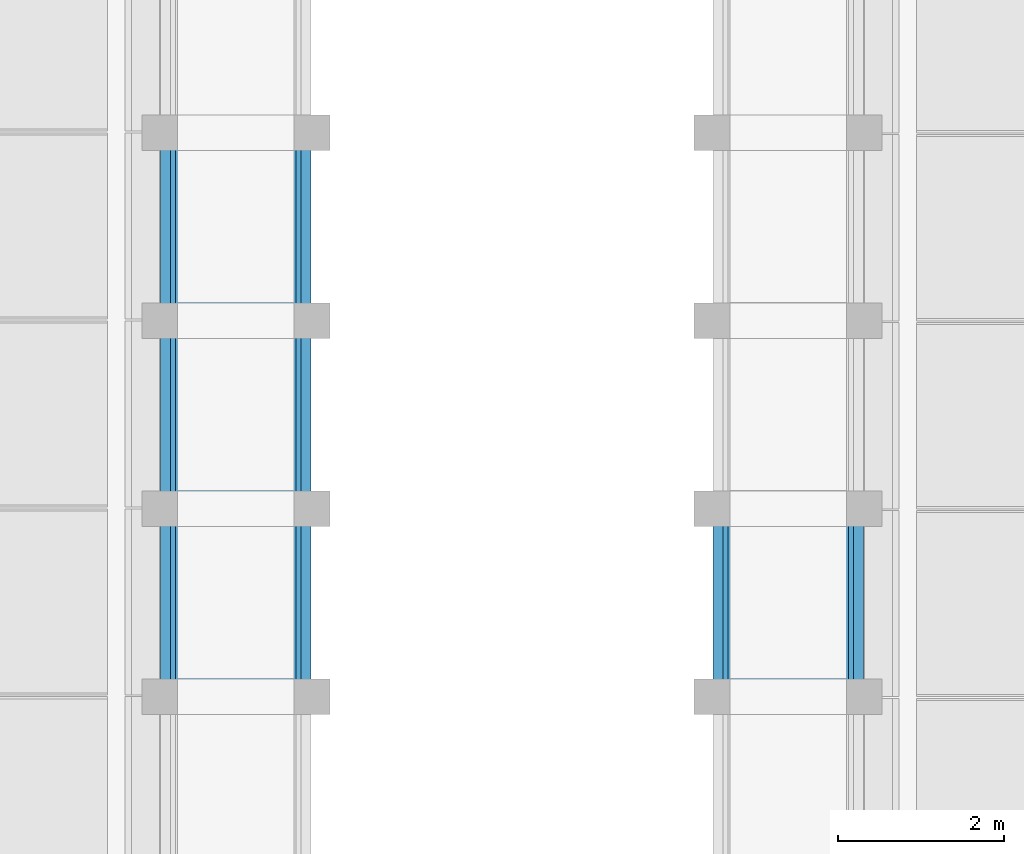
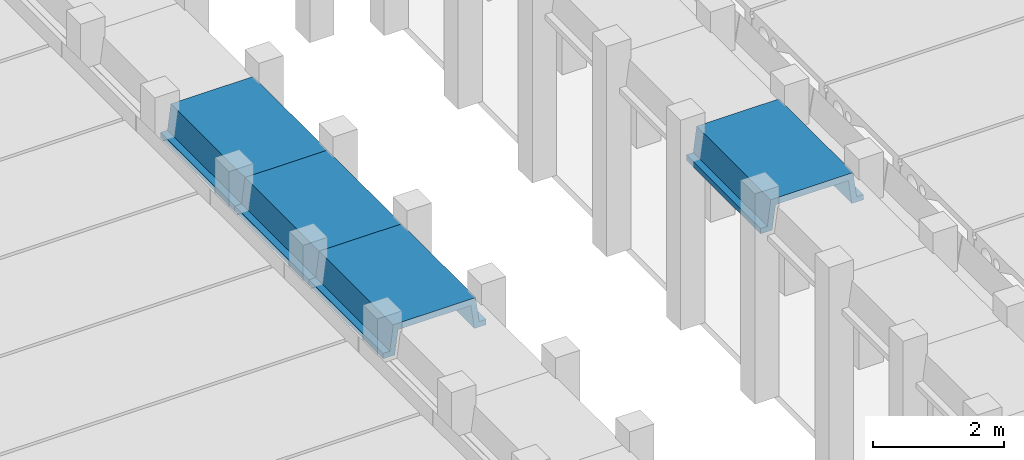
# One storey, part 12 of 21: 4 beams.
"""IFC2X3 building model written with IfcOpenShell, lengths in millimetres."""

from ifc_helpers import new_model, entity, si_unit, converted_unit, derived_unit, direction, frame, origin, place, context, subcontext, project, spatial, polyline, outline, extrude, material, type_object, element, save


model = new_model("IFC2X3")

# Units and contexts
model_context = context("Model", 3, precision=0.01, world=origin(), true_north=direction((6.12303176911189e-17, 1.0)))
body_context = subcontext(model_context, "Body", "Model", "MODEL_VIEW")
ifc_project = project(units=[si_unit("LENGTHUNIT", "METRE", prefix="MILLI"), si_unit("AREAUNIT", "SQUARE_METRE"), si_unit("VOLUMEUNIT", "CUBIC_METRE"), converted_unit("PLANEANGLEUNIT", "DEGREE", entity("IfcRatioMeasure", 0.0174532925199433), si_unit("PLANEANGLEUNIT", "RADIAN"), dimensions=[0, 0, 0, 0, 0, 0, 0]), si_unit("MASSUNIT", "GRAM", prefix="KILO"), derived_unit("MASSDENSITYUNIT", [(si_unit("MASSUNIT", "GRAM", prefix="KILO"), 1), (si_unit("LENGTHUNIT", "METRE"), -3)]), derived_unit("MOMENTOFINERTIAUNIT", [(si_unit("LENGTHUNIT", "METRE"), 4)]), si_unit("TIMEUNIT", "SECOND"), si_unit("FREQUENCYUNIT", "HERTZ"), si_unit("THERMODYNAMICTEMPERATUREUNIT", "DEGREE_CELSIUS"), derived_unit("THERMALTRANSMITTANCEUNIT", [(si_unit("MASSUNIT", "GRAM", prefix="KILO"), 1), (si_unit("THERMODYNAMICTEMPERATUREUNIT", "KELVIN"), -1), (si_unit("TIMEUNIT", "SECOND"), -3)]), derived_unit("VOLUMETRICFLOWRATEUNIT", [(si_unit("LENGTHUNIT", "METRE"), 3), (si_unit("TIMEUNIT", "SECOND"), -1)]), si_unit("ELECTRICCURRENTUNIT", "AMPERE"), si_unit("ELECTRICVOLTAGEUNIT", "VOLT"), si_unit("POWERUNIT", "WATT"), si_unit("FORCEUNIT", "NEWTON", prefix="KILO"), si_unit("ILLUMINANCEUNIT", "LUX"), si_unit("LUMINOUSFLUXUNIT", "LUMEN"), si_unit("LUMINOUSINTENSITYUNIT", "CANDELA"), derived_unit("USERDEFINED", [(si_unit("MASSUNIT", "GRAM", prefix="KILO"), -1), (si_unit("LENGTHUNIT", "METRE"), -2), (si_unit("TIMEUNIT", "SECOND"), 3), (si_unit("LUMINOUSFLUXUNIT", "LUMEN"), 1)]), derived_unit("LINEARVELOCITYUNIT", [(si_unit("LENGTHUNIT", "METRE"), 1), (si_unit("TIMEUNIT", "SECOND"), -1)]), si_unit("PRESSUREUNIT", "PASCAL"), derived_unit("USERDEFINED", [(si_unit("LENGTHUNIT", "METRE"), -2), (si_unit("MASSUNIT", "GRAM", prefix="KILO"), 1), (si_unit("TIMEUNIT", "SECOND"), -2)]), derived_unit("LINEARFORCEUNIT", [(si_unit("MASSUNIT", "GRAM", prefix="KILO"), 1), (si_unit("LENGTHUNIT", "METRE"), 1), (si_unit("TIMEUNIT", "SECOND"), -2), (si_unit("LENGTHUNIT", "METRE"), -1)]), derived_unit("PLANARFORCEUNIT", [(si_unit("MASSUNIT", "GRAM", prefix="KILO"), 1), (si_unit("LENGTHUNIT", "METRE"), 1), (si_unit("TIMEUNIT", "SECOND"), -2), (si_unit("LENGTHUNIT", "METRE"), -2)])], contexts=[model_context])

# Site, building, storey
site_placement = place(None, frame((10627.5135316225, 21939.0796949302, 0.0)))
site = spatial("IfcSite", under=ifc_project, at=site_placement, Name="Default", CompositionType="ELEMENT")
building_placement = place(site_placement, origin())
building = spatial("IfcBuilding", under=site, at=building_placement, CompositionType="ELEMENT")
storey_placement = place(building_placement, frame((0.0, 0.0, 7320.0)))
storey = spatial("IfcBuildingStorey", under=building, at=storey_placement, Name="R+2", CompositionType="ELEMENT", Elevation=7320.0)

# Beams
ifc_material = material(Name="Concrete, Precast Smooth, Light Grey")
beam_type = type_object("IfcBeamType", Name="Poutre petite:Poutre petite", PredefinedType="NOTDEFINED")
beam_1_placement = place(storey_placement, frame((23257.4864683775, 7440.92030506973, 3530.0), z_axis=(0.0, 0.0, 1.0), x_axis=(0.0, 1.0, 0.0)))
element("IfcBeam", 1, at=beam_1_placement, inside=storey, type_object=beam_type, material=ifc_material, Name="Poutre petite:Poutre petite", ObjectType="Poutre petite:Poutre petite", context=body_context, shape_type="SweptSolid", body=[
    extrude(outline(polyline([(103.333217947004, -905.013684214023), (203.333564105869, -905.013684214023), (203.333564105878, -700.013730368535), (-246.666782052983, -640.013684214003), (-246.666782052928, 640.013497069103), (203.333564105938, 700.0135432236), (203.333564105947, 905.014058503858), (103.333217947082, 905.014058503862), (103.333217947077, 785.013497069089), (-366.666782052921, 725.01349706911), (-366.666782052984, -725.013684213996), (103.333217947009, -785.013684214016), (103.333217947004, -905.013684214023)])), frame((0.0, -0.000187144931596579, -366.666782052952), z_axis=(1.0, 0.0, 0.0), x_axis=(0.0, 0.0, -1.0)), (0.0, 0.0, 1.0), 2260.0),
])
beam_2_placement = place(storey_placement, frame((23257.4864683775, 5180.92030506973, 3530.0), z_axis=(0.0, 0.0, 1.0), x_axis=(0.0, 1.0, 0.0)))
element("IfcBeam", 2, at=beam_2_placement, inside=storey, type_object=beam_type, material=ifc_material, Name="Poutre petite:Poutre petite", ObjectType="Poutre petite:Poutre petite", context=body_context, shape_type="SweptSolid", body=[
    extrude(outline(polyline([(103.333217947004, -905.013684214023), (203.333564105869, -905.013684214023), (203.333564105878, -700.013730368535), (-246.666782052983, -640.013684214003), (-246.666782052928, 640.013497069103), (203.333564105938, 700.0135432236), (203.333564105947, 905.014058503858), (103.333217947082, 905.014058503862), (103.333217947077, 785.013497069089), (-366.666782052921, 725.01349706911), (-366.666782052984, -725.013684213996), (103.333217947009, -785.013684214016), (103.333217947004, -905.013684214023)])), frame((0.0, -0.000187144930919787, -366.666782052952), z_axis=(1.0, 0.0, 0.0), x_axis=(0.0, 0.0, -1.0)), (0.0, 0.0, 1.0), 2260.0),
])
beam_3_placement = place(storey_placement, frame((23257.4864683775, 2920.92030506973, 3530.0), z_axis=(0.0, 0.0, 1.0), x_axis=(0.0, 1.0, 0.0)))
element("IfcBeam", 3, at=beam_3_placement, inside=storey, type_object=beam_type, material=ifc_material, Name="Poutre petite:Poutre petite", ObjectType="Poutre petite:Poutre petite", context=body_context, shape_type="SweptSolid", body=[
    extrude(outline(polyline([(103.333217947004, -905.013684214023), (203.333564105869, -905.013684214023), (203.333564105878, -700.013730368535), (-246.666782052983, -640.013684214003), (-246.666782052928, 640.013497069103), (203.333564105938, 700.0135432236), (203.333564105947, 905.014058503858), (103.333217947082, 905.014058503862), (103.333217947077, 785.013497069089), (-366.666782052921, 725.01349706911), (-366.666782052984, -725.013684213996), (103.333217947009, -785.013684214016), (103.333217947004, -905.013684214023)])), frame((0.0, -0.000187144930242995, -366.666782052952), z_axis=(1.0, 0.0, 0.0), x_axis=(0.0, 0.0, -1.0)), (0.0, 0.0, 1.0), 2260.0),
])
beam_4_placement = place(storey_placement, frame((29897.4864683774, 2920.92030506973, 3530.0), z_axis=(0.0, 0.0, 1.0), x_axis=(0.0, 1.0, 0.0)))
element("IfcBeam", 4, at=beam_4_placement, inside=storey, type_object=beam_type, material=ifc_material, Name="Poutre petite:Poutre petite", ObjectType="Poutre petite:Poutre petite", context=body_context, shape_type="SweptSolid", body=[
    extrude(outline(polyline([(103.333217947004, -905.014058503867), (203.333564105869, -905.014058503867), (203.333564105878, -700.013543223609), (-246.666782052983, -640.013497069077), (-246.666782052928, 640.013684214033), (203.333564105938, 700.013730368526), (203.333564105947, 905.01368421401), (103.333217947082, 905.013684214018), (103.333217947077, 785.013684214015), (-366.666782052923, 725.013684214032), (-366.666782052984, -725.01349706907), (103.333217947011, -785.013497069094), (103.333217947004, -905.014058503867)])), frame((0.0, 0.000187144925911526, -366.666782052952), z_axis=(1.0, 0.0, 0.0), x_axis=(0.0, 0.0, -1.0)), (0.0, 0.0, 1.0), 2260.0),
])

save(model, "model.ifc")
